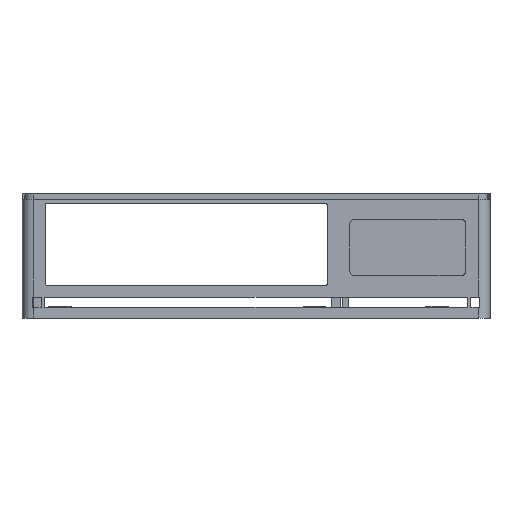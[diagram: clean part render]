
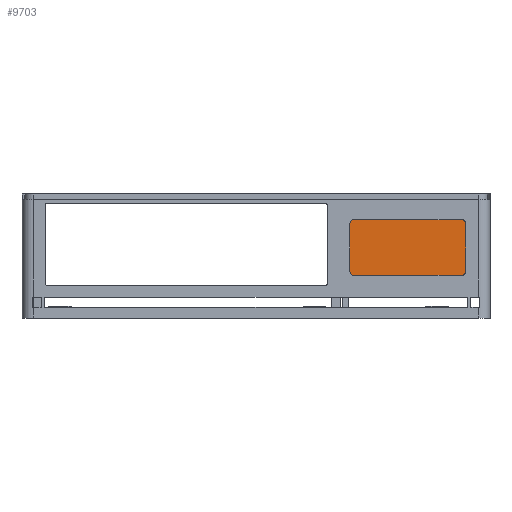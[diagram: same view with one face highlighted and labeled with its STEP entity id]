
A CAD part, front view. The second image highlights one B-rep face of the part: STEP entity #9703.
In plain terms, the highlighted planar face has unit normal (0, -1, 0).
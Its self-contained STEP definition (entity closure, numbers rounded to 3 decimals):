
#7437 = CYLINDRICAL_SURFACE('',#7438,2.);
#7438 = AXIS2_PLACEMENT_3D('',#7439,#7440,#7441);
#7439 = CARTESIAN_POINT('',(175.8,-1.,50.2));
#7440 = DIRECTION('',(0.,1.,0.));
#7441 = DIRECTION('',(-1.,0.,0.));
#7464 = PLANE('',#7465);
#7465 = AXIS2_PLACEMENT_3D('',#7466,#7467,#7468);
#7466 = CARTESIAN_POINT('',(173.8,-1.,22.8));
#7467 = DIRECTION('',(1.,0.,0.));
#7468 = DIRECTION('',(0.,0.,1.));
#7492 = CYLINDRICAL_SURFACE('',#7493,2.);
#7493 = AXIS2_PLACEMENT_3D('',#7494,#7495,#7496);
#7494 = CARTESIAN_POINT('',(175.8,-1.,24.8));
#7495 = DIRECTION('',(0.,1.,0.));
#7496 = DIRECTION('',(-1.,0.,0.));
#7519 = PLANE('',#7520);
#7520 = AXIS2_PLACEMENT_3D('',#7521,#7522,#7523);
#7521 = CARTESIAN_POINT('',(173.8,-1.,22.8));
#7522 = DIRECTION('',(0.,0.,1.));
#7523 = DIRECTION('',(1.,0.,0.));
#7547 = CYLINDRICAL_SURFACE('',#7548,2.);
#7548 = AXIS2_PLACEMENT_3D('',#7549,#7550,#7551);
#7549 = CARTESIAN_POINT('',(233.2,-1.,24.8));
#7550 = DIRECTION('',(0.,1.,0.));
#7551 = DIRECTION('',(1.,0.,-0.));
#7574 = PLANE('',#7575);
#7575 = AXIS2_PLACEMENT_3D('',#7576,#7577,#7578);
#7576 = CARTESIAN_POINT('',(235.2,-1.,22.8));
#7577 = DIRECTION('',(1.,0.,0.));
#7578 = DIRECTION('',(0.,0.,1.));
#7602 = CYLINDRICAL_SURFACE('',#7603,2.);
#7603 = AXIS2_PLACEMENT_3D('',#7604,#7605,#7606);
#7604 = CARTESIAN_POINT('',(233.2,-1.,50.2));
#7605 = DIRECTION('',(0.,1.,0.));
#7606 = DIRECTION('',(1.,0.,-0.));
#7627 = PLANE('',#7628);
#7628 = AXIS2_PLACEMENT_3D('',#7629,#7630,#7631);
#7629 = CARTESIAN_POINT('',(173.8,-1.,52.2));
#7630 = DIRECTION('',(0.,0.,1.));
#7631 = DIRECTION('',(1.,0.,0.));
#9222 = VERTEX_POINT('',#9223);
#9223 = CARTESIAN_POINT('',(173.8,0.5,50.2));
#9246 = VERTEX_POINT('',#9247);
#9247 = CARTESIAN_POINT('',(175.8,0.5,52.2));
#9268 = EDGE_CURVE('',#9222,#9246,#9269,.T.);
#9269 = SURFACE_CURVE('',#9270,(#9275,#9282),.PCURVE_S1.);
#9270 = CIRCLE('',#9271,2.);
#9271 = AXIS2_PLACEMENT_3D('',#9272,#9273,#9274);
#9272 = CARTESIAN_POINT('',(175.8,0.5,50.2));
#9273 = DIRECTION('',(0.,1.,0.));
#9274 = DIRECTION('',(0.,-0.,1.));
#9275 = PCURVE('',#7437,#9276);
#9276 = DEFINITIONAL_REPRESENTATION('',(#9277),#9281);
#9277 = LINE('',#9278,#9279);
#9278 = CARTESIAN_POINT('',(-4.712,1.5));
#9279 = VECTOR('',#9280,1.);
#9280 = DIRECTION('',(1.,0.));
#9281 = ( GEOMETRIC_REPRESENTATION_CONTEXT(2) 
PARAMETRIC_REPRESENTATION_CONTEXT() REPRESENTATION_CONTEXT('2D SPACE',''
  ) );
#9282 = PCURVE('',#9283,#9288);
#9283 = PLANE('',#9284);
#9284 = AXIS2_PLACEMENT_3D('',#9285,#9286,#9287);
#9285 = CARTESIAN_POINT('',(173.8,0.5,22.8));
#9286 = DIRECTION('',(0.,1.,0.));
#9287 = DIRECTION('',(0.,0.,1.));
#9288 = DEFINITIONAL_REPRESENTATION('',(#9289),#9293);
#9289 = CIRCLE('',#9290,2.);
#9290 = AXIS2_PLACEMENT_2D('',#9291,#9292);
#9291 = CARTESIAN_POINT('',(27.4,2.));
#9292 = DIRECTION('',(1.,0.));
#9293 = ( GEOMETRIC_REPRESENTATION_CONTEXT(2) 
PARAMETRIC_REPRESENTATION_CONTEXT() REPRESENTATION_CONTEXT('2D SPACE',''
  ) );
#9298 = EDGE_CURVE('',#9246,#9299,#9301,.T.);
#9299 = VERTEX_POINT('',#9300);
#9300 = CARTESIAN_POINT('',(233.2,0.5,52.2));
#9301 = SURFACE_CURVE('',#9302,(#9306,#9313),.PCURVE_S1.);
#9302 = LINE('',#9303,#9304);
#9303 = CARTESIAN_POINT('',(173.8,0.5,52.2));
#9304 = VECTOR('',#9305,1.);
#9305 = DIRECTION('',(1.,0.,0.));
#9306 = PCURVE('',#7627,#9307);
#9307 = DEFINITIONAL_REPRESENTATION('',(#9308),#9312);
#9308 = LINE('',#9309,#9310);
#9309 = CARTESIAN_POINT('',(0.,1.5));
#9310 = VECTOR('',#9311,1.);
#9311 = DIRECTION('',(1.,0.));
#9312 = ( GEOMETRIC_REPRESENTATION_CONTEXT(2) 
PARAMETRIC_REPRESENTATION_CONTEXT() REPRESENTATION_CONTEXT('2D SPACE',''
  ) );
#9313 = PCURVE('',#9283,#9314);
#9314 = DEFINITIONAL_REPRESENTATION('',(#9315),#9319);
#9315 = LINE('',#9316,#9317);
#9316 = CARTESIAN_POINT('',(29.4,0.));
#9317 = VECTOR('',#9318,1.);
#9318 = DIRECTION('',(0.,1.));
#9319 = ( GEOMETRIC_REPRESENTATION_CONTEXT(2) 
PARAMETRIC_REPRESENTATION_CONTEXT() REPRESENTATION_CONTEXT('2D SPACE',''
  ) );
#9348 = VERTEX_POINT('',#9349);
#9349 = CARTESIAN_POINT('',(235.2,0.5,50.2));
#9372 = EDGE_CURVE('',#9348,#9299,#9373,.T.);
#9373 = SURFACE_CURVE('',#9374,(#9379,#9386),.PCURVE_S1.);
#9374 = CIRCLE('',#9375,2.);
#9375 = AXIS2_PLACEMENT_3D('',#9376,#9377,#9378);
#9376 = CARTESIAN_POINT('',(233.2,0.5,50.2));
#9377 = DIRECTION('',(-0.,-1.,0.));
#9378 = DIRECTION('',(0.,-0.,1.));
#9379 = PCURVE('',#7602,#9380);
#9380 = DEFINITIONAL_REPRESENTATION('',(#9381),#9385);
#9381 = LINE('',#9382,#9383);
#9382 = CARTESIAN_POINT('',(4.712,1.5));
#9383 = VECTOR('',#9384,1.);
#9384 = DIRECTION('',(-1.,0.));
#9385 = ( GEOMETRIC_REPRESENTATION_CONTEXT(2) 
PARAMETRIC_REPRESENTATION_CONTEXT() REPRESENTATION_CONTEXT('2D SPACE',''
  ) );
#9386 = PCURVE('',#9283,#9387);
#9387 = DEFINITIONAL_REPRESENTATION('',(#9388),#9396);
#9388 = ( BOUNDED_CURVE() B_SPLINE_CURVE(2,(#9389,#9390,#9391,#9392,
#9393,#9394,#9395),.UNSPECIFIED.,.T.,.F.) B_SPLINE_CURVE_WITH_KNOTS((1,2
    ,2,2,2,1),(-2.094,0.,2.094,4.189,
6.283,8.378),.UNSPECIFIED.) CURVE() 
GEOMETRIC_REPRESENTATION_ITEM() RATIONAL_B_SPLINE_CURVE((1.,0.5,1.,0.5,
1.,0.5,1.)) REPRESENTATION_ITEM('') );
#9389 = CARTESIAN_POINT('',(29.4,59.4));
#9390 = CARTESIAN_POINT('',(29.4,55.936));
#9391 = CARTESIAN_POINT('',(26.4,57.668));
#9392 = CARTESIAN_POINT('',(23.4,59.4));
#9393 = CARTESIAN_POINT('',(26.4,61.132));
#9394 = CARTESIAN_POINT('',(29.4,62.864));
#9395 = CARTESIAN_POINT('',(29.4,59.4));
#9396 = ( GEOMETRIC_REPRESENTATION_CONTEXT(2) 
PARAMETRIC_REPRESENTATION_CONTEXT() REPRESENTATION_CONTEXT('2D SPACE',''
  ) );
#9403 = VERTEX_POINT('',#9404);
#9404 = CARTESIAN_POINT('',(235.2,0.5,24.8));
#9425 = EDGE_CURVE('',#9403,#9348,#9426,.T.);
#9426 = SURFACE_CURVE('',#9427,(#9431,#9438),.PCURVE_S1.);
#9427 = LINE('',#9428,#9429);
#9428 = CARTESIAN_POINT('',(235.2,0.5,22.8));
#9429 = VECTOR('',#9430,1.);
#9430 = DIRECTION('',(0.,0.,1.));
#9431 = PCURVE('',#7574,#9432);
#9432 = DEFINITIONAL_REPRESENTATION('',(#9433),#9437);
#9433 = LINE('',#9434,#9435);
#9434 = CARTESIAN_POINT('',(0.,-1.5));
#9435 = VECTOR('',#9436,1.);
#9436 = DIRECTION('',(1.,0.));
#9437 = ( GEOMETRIC_REPRESENTATION_CONTEXT(2) 
PARAMETRIC_REPRESENTATION_CONTEXT() REPRESENTATION_CONTEXT('2D SPACE',''
  ) );
#9438 = PCURVE('',#9283,#9439);
#9439 = DEFINITIONAL_REPRESENTATION('',(#9440),#9444);
#9440 = LINE('',#9441,#9442);
#9441 = CARTESIAN_POINT('',(0.,61.4));
#9442 = VECTOR('',#9443,1.);
#9443 = DIRECTION('',(1.,0.));
#9444 = ( GEOMETRIC_REPRESENTATION_CONTEXT(2) 
PARAMETRIC_REPRESENTATION_CONTEXT() REPRESENTATION_CONTEXT('2D SPACE',''
  ) );
#9453 = VERTEX_POINT('',#9454);
#9454 = CARTESIAN_POINT('',(233.2,0.5,22.8));
#9475 = EDGE_CURVE('',#9403,#9453,#9476,.T.);
#9476 = SURFACE_CURVE('',#9477,(#9482,#9489),.PCURVE_S1.);
#9477 = CIRCLE('',#9478,2.);
#9478 = AXIS2_PLACEMENT_3D('',#9479,#9480,#9481);
#9479 = CARTESIAN_POINT('',(233.2,0.5,24.8));
#9480 = DIRECTION('',(0.,1.,0.));
#9481 = DIRECTION('',(0.,-0.,1.));
#9482 = PCURVE('',#7547,#9483);
#9483 = DEFINITIONAL_REPRESENTATION('',(#9484),#9488);
#9484 = LINE('',#9485,#9486);
#9485 = CARTESIAN_POINT('',(-1.571,1.5));
#9486 = VECTOR('',#9487,1.);
#9487 = DIRECTION('',(1.,0.));
#9488 = ( GEOMETRIC_REPRESENTATION_CONTEXT(2) 
PARAMETRIC_REPRESENTATION_CONTEXT() REPRESENTATION_CONTEXT('2D SPACE',''
  ) );
#9489 = PCURVE('',#9283,#9490);
#9490 = DEFINITIONAL_REPRESENTATION('',(#9491),#9495);
#9491 = CIRCLE('',#9492,2.);
#9492 = AXIS2_PLACEMENT_2D('',#9493,#9494);
#9493 = CARTESIAN_POINT('',(2.,59.4));
#9494 = DIRECTION('',(1.,0.));
#9495 = ( GEOMETRIC_REPRESENTATION_CONTEXT(2) 
PARAMETRIC_REPRESENTATION_CONTEXT() REPRESENTATION_CONTEXT('2D SPACE',''
  ) );
#9500 = EDGE_CURVE('',#9501,#9453,#9503,.T.);
#9501 = VERTEX_POINT('',#9502);
#9502 = CARTESIAN_POINT('',(175.8,0.5,22.8));
#9503 = SURFACE_CURVE('',#9504,(#9508,#9515),.PCURVE_S1.);
#9504 = LINE('',#9505,#9506);
#9505 = CARTESIAN_POINT('',(173.8,0.5,22.8));
#9506 = VECTOR('',#9507,1.);
#9507 = DIRECTION('',(1.,0.,0.));
#9508 = PCURVE('',#7519,#9509);
#9509 = DEFINITIONAL_REPRESENTATION('',(#9510),#9514);
#9510 = LINE('',#9511,#9512);
#9511 = CARTESIAN_POINT('',(0.,1.5));
#9512 = VECTOR('',#9513,1.);
#9513 = DIRECTION('',(1.,0.));
#9514 = ( GEOMETRIC_REPRESENTATION_CONTEXT(2) 
PARAMETRIC_REPRESENTATION_CONTEXT() REPRESENTATION_CONTEXT('2D SPACE',''
  ) );
#9515 = PCURVE('',#9283,#9516);
#9516 = DEFINITIONAL_REPRESENTATION('',(#9517),#9521);
#9517 = LINE('',#9518,#9519);
#9518 = CARTESIAN_POINT('',(0.,0.));
#9519 = VECTOR('',#9520,1.);
#9520 = DIRECTION('',(0.,1.));
#9521 = ( GEOMETRIC_REPRESENTATION_CONTEXT(2) 
PARAMETRIC_REPRESENTATION_CONTEXT() REPRESENTATION_CONTEXT('2D SPACE',''
  ) );
#9550 = VERTEX_POINT('',#9551);
#9551 = CARTESIAN_POINT('',(173.8,0.5,24.8));
#9574 = EDGE_CURVE('',#9550,#9501,#9575,.T.);
#9575 = SURFACE_CURVE('',#9576,(#9581,#9588),.PCURVE_S1.);
#9576 = CIRCLE('',#9577,2.);
#9577 = AXIS2_PLACEMENT_3D('',#9578,#9579,#9580);
#9578 = CARTESIAN_POINT('',(175.8,0.5,24.8));
#9579 = DIRECTION('',(-0.,-1.,0.));
#9580 = DIRECTION('',(0.,-0.,1.));
#9581 = PCURVE('',#7492,#9582);
#9582 = DEFINITIONAL_REPRESENTATION('',(#9583),#9587);
#9583 = LINE('',#9584,#9585);
#9584 = CARTESIAN_POINT('',(1.571,1.5));
#9585 = VECTOR('',#9586,1.);
#9586 = DIRECTION('',(-1.,0.));
#9587 = ( GEOMETRIC_REPRESENTATION_CONTEXT(2) 
PARAMETRIC_REPRESENTATION_CONTEXT() REPRESENTATION_CONTEXT('2D SPACE',''
  ) );
#9588 = PCURVE('',#9283,#9589);
#9589 = DEFINITIONAL_REPRESENTATION('',(#9590),#9598);
#9590 = ( BOUNDED_CURVE() B_SPLINE_CURVE(2,(#9591,#9592,#9593,#9594,
#9595,#9596,#9597),.UNSPECIFIED.,.T.,.F.) B_SPLINE_CURVE_WITH_KNOTS((1,2
    ,2,2,2,1),(-2.094,0.,2.094,4.189,
6.283,8.378),.UNSPECIFIED.) CURVE() 
GEOMETRIC_REPRESENTATION_ITEM() RATIONAL_B_SPLINE_CURVE((1.,0.5,1.,0.5,
1.,0.5,1.)) REPRESENTATION_ITEM('') );
#9591 = CARTESIAN_POINT('',(4.,2.));
#9592 = CARTESIAN_POINT('',(4.,-1.464));
#9593 = CARTESIAN_POINT('',(1.,0.268));
#9594 = CARTESIAN_POINT('',(-2.,2.));
#9595 = CARTESIAN_POINT('',(1.,3.732));
#9596 = CARTESIAN_POINT('',(4.,5.464));
#9597 = CARTESIAN_POINT('',(4.,2.));
#9598 = ( GEOMETRIC_REPRESENTATION_CONTEXT(2) 
PARAMETRIC_REPRESENTATION_CONTEXT() REPRESENTATION_CONTEXT('2D SPACE',''
  ) );
#9605 = EDGE_CURVE('',#9550,#9222,#9606,.T.);
#9606 = SURFACE_CURVE('',#9607,(#9611,#9618),.PCURVE_S1.);
#9607 = LINE('',#9608,#9609);
#9608 = CARTESIAN_POINT('',(173.8,0.5,22.8));
#9609 = VECTOR('',#9610,1.);
#9610 = DIRECTION('',(0.,0.,1.));
#9611 = PCURVE('',#7464,#9612);
#9612 = DEFINITIONAL_REPRESENTATION('',(#9613),#9617);
#9613 = LINE('',#9614,#9615);
#9614 = CARTESIAN_POINT('',(0.,-1.5));
#9615 = VECTOR('',#9616,1.);
#9616 = DIRECTION('',(1.,0.));
#9617 = ( GEOMETRIC_REPRESENTATION_CONTEXT(2) 
PARAMETRIC_REPRESENTATION_CONTEXT() REPRESENTATION_CONTEXT('2D SPACE',''
  ) );
#9618 = PCURVE('',#9283,#9619);
#9619 = DEFINITIONAL_REPRESENTATION('',(#9620),#9624);
#9620 = LINE('',#9621,#9622);
#9621 = CARTESIAN_POINT('',(0.,0.));
#9622 = VECTOR('',#9623,1.);
#9623 = DIRECTION('',(1.,0.));
#9624 = ( GEOMETRIC_REPRESENTATION_CONTEXT(2) 
PARAMETRIC_REPRESENTATION_CONTEXT() REPRESENTATION_CONTEXT('2D SPACE',''
  ) );
#9703 = ADVANCED_FACE('',(#9704),#9283,.F.);
#9704 = FACE_BOUND('',#9705,.F.);
#9705 = EDGE_LOOP('',(#9706,#9707,#9708,#9709,#9710,#9711,#9712,#9713));
#9706 = ORIENTED_EDGE('',*,*,#9500,.F.);
#9707 = ORIENTED_EDGE('',*,*,#9574,.F.);
#9708 = ORIENTED_EDGE('',*,*,#9605,.T.);
#9709 = ORIENTED_EDGE('',*,*,#9268,.T.);
#9710 = ORIENTED_EDGE('',*,*,#9298,.T.);
#9711 = ORIENTED_EDGE('',*,*,#9372,.F.);
#9712 = ORIENTED_EDGE('',*,*,#9425,.F.);
#9713 = ORIENTED_EDGE('',*,*,#9475,.T.);
